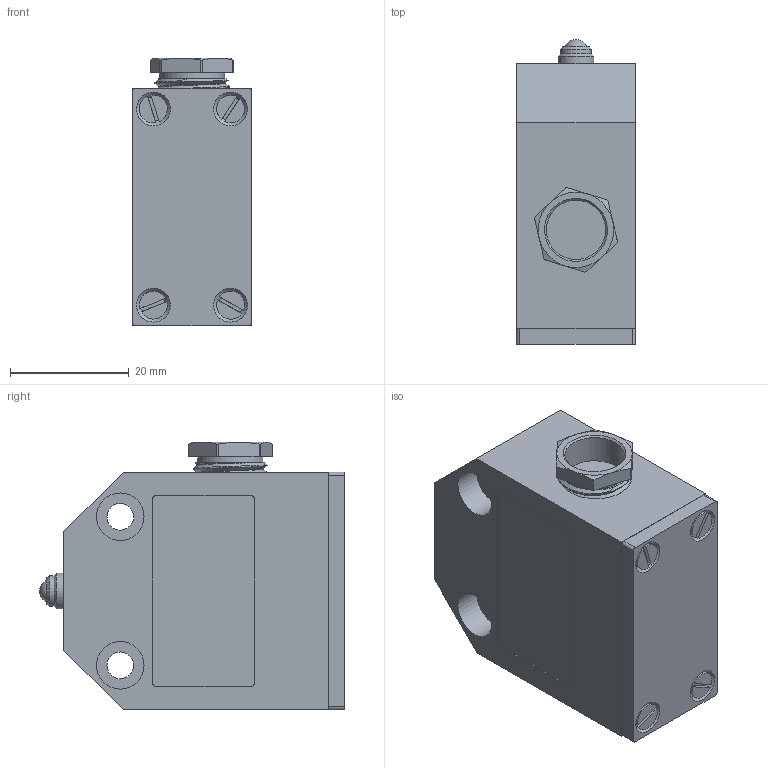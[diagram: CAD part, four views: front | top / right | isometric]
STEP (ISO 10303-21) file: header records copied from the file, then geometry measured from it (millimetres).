
FILE_DESCRIPTION(('Interruptor de Posicao Subminiatura Acionador Esfera Terminal Parafuso'),'2;1');
FILE_NAME('E:\WorkFolder\Serie\LQ\STEP\kp_lq_lq1k1p_step.stp','2012-05-21T09:04:23',('DIE'),('KAP'),'Autodesk Inventor 2011','Autodesk Inventor 2011','Direitos reservados. Proibido reproducao, cedencia ou revelacao de conteudo a terceiros, salvo com autorizacao. ');
FILE_SCHEMA(('AUTOMOTIVE_DESIGN { 1 0 10303 214 1 1 1 1 }'));
Length unit declared in the file: millimetre
Products named in the file (4): LQ1K1P_3D; LQ_Caixa_1P; LQ_Atuador_K; LQ_Tampa
Assembly tree (3 placements, depth 2):
  LQ1K1P_3D
    LQ_Caixa_1P
    LQ_Atuador_K
    LQ_Tampa
Bounding box: 20 x 51.27 x 45.06 mm (x, y, z)
Volume: 34541.1 mm3; surface area: 10157.7 mm2
Topology: 3 solids, 3 shells, 122 faces, 295 edges, 194 vertices
Faces by surface type: plane 64, cylinder 39, cone 15, bspline 3, sphere 1
Full cylindrical faces by diameter (mm): 4.5 x2, 5.2 x1, 6 x2, 8 x4, 10 x1, 11 x1
Entity records: 4007 total; most frequent: CARTESIAN_POINT 1042, DIRECTION 582, ORIENTED_EDGE 534, EDGE_CURVE 267, AXIS2_PLACEMENT_3D 229, VERTEX_POINT 186, EDGE_LOOP 161, STYLED_ITEM 125
